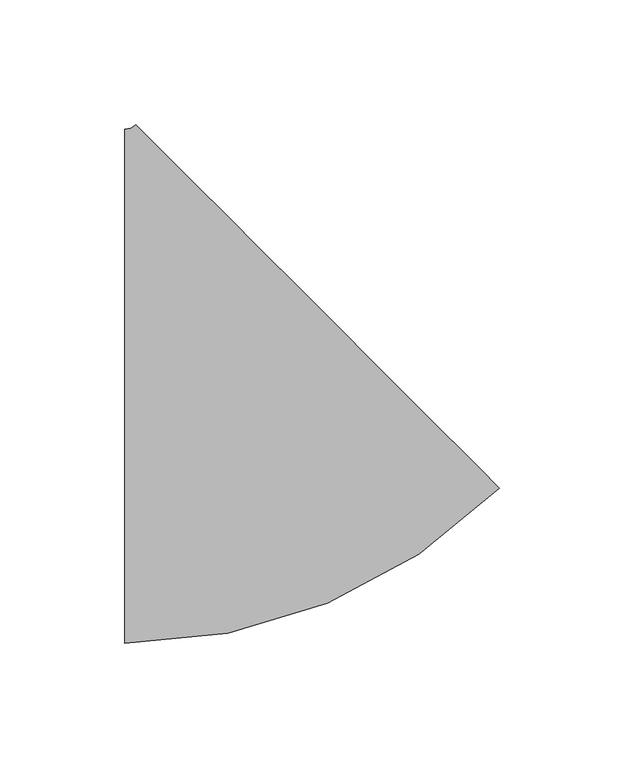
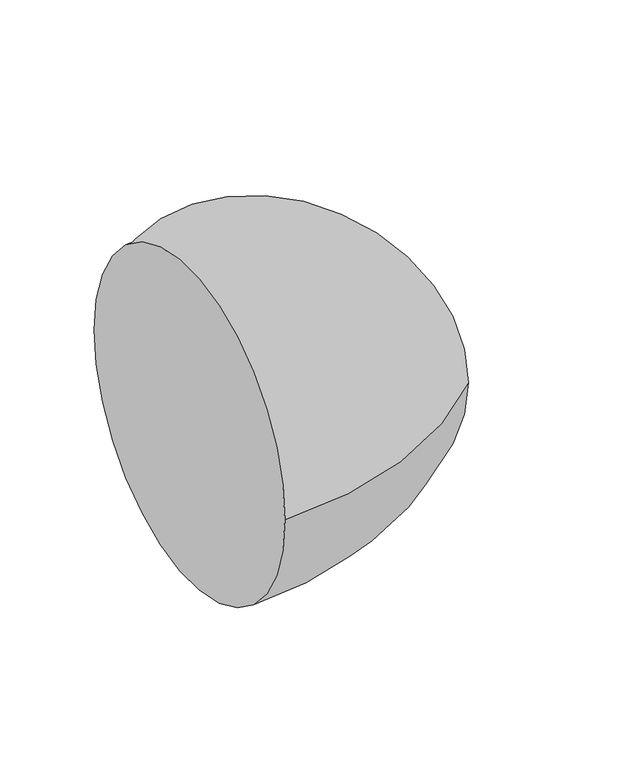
"""IFC4 building model written with IfcOpenShell, lengths in millimetres: pipe fitting geometry, M_Codo - Genérico : Estándar."""

from ifc_helpers import new_model, si_unit, point, frame, origin, place, context, project, spatial, circle_curve, ellipse_curve, trimmed, source, transform, mapped, element, save
from ifc_brep_helpers import plane_surface, revolved_surface, advanced_brep


def pipe_fitting_36eb3228(model_context):
    return source(origin(), model_context, "Body", "AdvancedBrep", [
        advanced_brep(
        [(-45.369199, -103.1875, 0.0), (-45.369199, 103.1875, 0.0), (105.0437166, -40.8881642, 0.0), (-40.8792612, 105.0471817, 0.0)],
        [
            (0, 1, circle_curve(frame((-45.369199, 0.0, 0.0), z_axis=(-1.0, 0.0, 0.0), x_axis=(0.0, 1.0, 0.0)), 103.1875)),
            (1, 0, circle_curve(frame((-45.369199, 0.0, 0.0), z_axis=(-1.0, 0.0, 0.0), x_axis=(0.0, 1.0, 0.0)), 103.1875)),
            (2, 3, circle_curve(frame((32.0822277, 32.0795087, 0.0), z_axis=(0.7071367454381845, 0.7070768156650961, 0.0), x_axis=(-0.7070768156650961, 0.7071367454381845, 0.0)), 103.1875)),
            (3, 2, circle_curve(frame((32.0822277, 32.0795087, 0.0), z_axis=(0.7071367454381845, 0.7070768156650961, 0.0), x_axis=(-0.7070768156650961, 0.7071367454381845, 0.0)), 103.1875)),
            (3, 1, circle_curve(frame((-45.369199, 109.5375, 0.0), z_axis=(0.0, 0.0, -1.0), x_axis=(0.0, -1.0, 0.0)), 6.35)),
            (0, 2, circle_curve(frame((-45.369199, 109.5375, 0.0), z_axis=(0.0, 0.0, 1.0), x_axis=(0.0, -1.0, 0.0)), 212.725)),
        ],
        [
            plane_surface(frame((-45.369199, 0.0, 0.0), z_axis=(-1.0, 0.0, 0.0), x_axis=(0.0, 0.0, 1.0))),
            plane_surface(frame((32.0822277, 32.0795087, 0.0), z_axis=(0.7071367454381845, 0.7070768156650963, 0.0), x_axis=(0.0, 0.0, 1.0))),
            revolved_surface(trimmed(ellipse_curve(frame((-45.369199, 0.0, 0.0), z_axis=(-1.0, 0.0, 0.0), x_axis=(0.0, 1.0, 0.0)), 103.1875, 103.1875), [point((-45.369199, -103.1875, 0.0))], [point((-45.369199, 103.1875, 0.0))], True, "CARTESIAN"), (-45.369199, 109.5375, 0.0), (0.0, 0.0, 1.0)),
            revolved_surface(trimmed(ellipse_curve(frame((-45.369199, 0.0, 0.0), z_axis=(-1.0, 0.0, 0.0), x_axis=(0.0, 1.0, 0.0)), 103.1875, 103.1875), [point((-45.369199, 103.1875, 0.0))], [point((-45.369199, -103.1875, 0.0))], True, "CARTESIAN"), (-45.369199, 109.5375, 0.0), (0.0, 0.0, 1.0)),
        ],
        [
            (0, [[1, 2]]),
            (1, [[3, 4]]),
            (2, [[5, -1, 6, -4]]),
            (3, [[-6, -2, -5, -3]]),
        ],
    ),
    ])


if __name__ == "__main__":
    model = new_model("IFC4")
    model_context = context("Model", 3, world=origin())
    ifc_project = project(units=[si_unit("LENGTHUNIT", "METRE", prefix="MILLI")], contexts=[model_context])
    site = spatial("IfcSite", under=ifc_project)
    building = spatial("IfcBuilding", under=site)
    placement = place(None, origin())
    pipe_fitting_shape = pipe_fitting_36eb3228(model_context)
    element("IfcPipeFitting", 1, ObjectType="M_Codo - Genérico : Estándar", at=placement, inside=building, context=model_context, shape_type="MappedRepresentation", body=[
        mapped(pipe_fitting_shape, transform((0.0, 0.0, 0.0), x_axis=(1.0, 0.0, 0.0), y_axis=(0.0, 1.0, 0.0), z_axis=(0.0, 0.0, 1.0))),
    ])
    save(model, "model.ifc")
